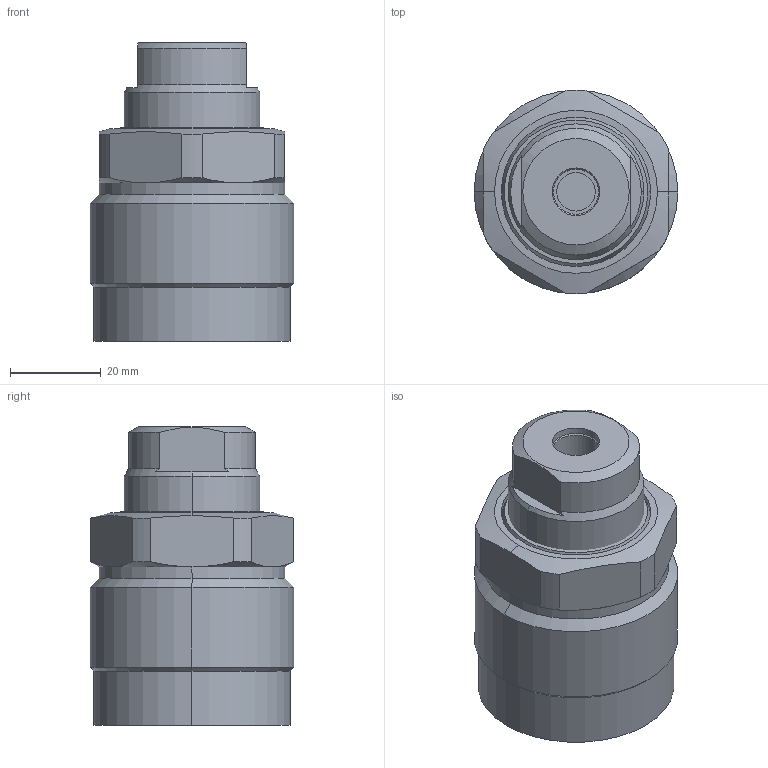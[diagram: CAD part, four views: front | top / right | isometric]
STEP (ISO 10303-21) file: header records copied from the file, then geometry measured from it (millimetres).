
FILE_DESCRIPTION (( 'STEP AP203' ), '1' );
FILE_NAME ('650451-AS.step', '2016-11-02T03:14:41', ( 'wxp' ), ( '' ), 'SwSTEP 2.0', 'SolidWorks 2011', '' );
FILE_SCHEMA (( 'CONFIG_CONTROL_DESIGN' ));
Length unit declared in the file: millimetre
Products named in the file (3): 650451-AS; 葩璃 650451-AS.sldasm-Part-2^650451-AS; 葩璃 650451-AS.sldasm-Part-1^650451-AS
Assembly tree (2 placements, depth 2):
  650451-AS
    葩璃 650451-AS.sldasm-Part-2^650451-AS
    葩璃 650451-AS.sldasm-Part-1^650451-AS
Bounding box: 45 x 45 x 66 mm (x, y, z)
Volume: 81725 mm3; surface area: 14454.4 mm2
Topology: 2 solids, 2 shells, 80 faces, 180 edges, 111 vertices
Faces by surface type: cylinder 34, plane 22, cone 18, torus 6
Entity records: 2643 total; most frequent: CARTESIAN_POINT 530, DIRECTION 416, ORIENTED_EDGE 356, EDGE_CURVE 178, AXIS2_PLACEMENT_3D 177, VERTEX_POINT 111, CIRCLE 92, EDGE_LOOP 89
